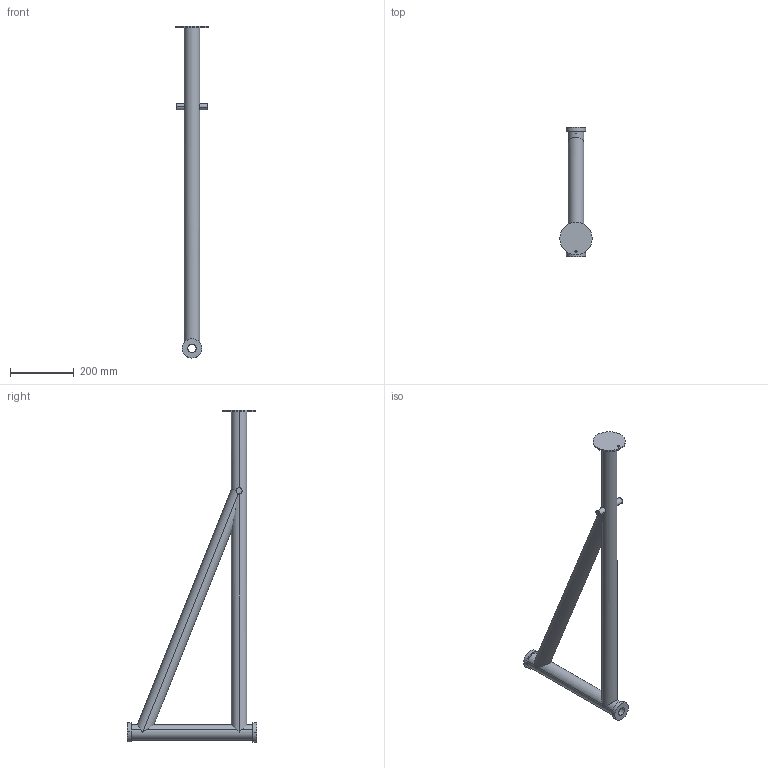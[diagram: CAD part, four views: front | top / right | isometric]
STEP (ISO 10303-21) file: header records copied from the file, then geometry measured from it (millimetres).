
FILE_DESCRIPTION (( 'STEP AP214' ), '1' );
FILE_NAME ('OBH-230-1.STEP', '2023-02-10T15:44:30', ( '' ), ( '' ), 'SwSTEP 2.0', 'SolidWorks 2021', '' );
FILE_SCHEMA (( 'AUTOMOTIVE_DESIGN' ));
Length unit declared in the file: inch
Products named in the file (7): OBH-2304; OBH-2303; OBH-2301; OBH-23011; OBH-2302; OBH-230-1; OBH-23012
Assembly tree (8 placements, depth 2):
  OBH-230-1
    OBH-2301
    OBH-2302
    OBH-2303  x2
    OBH-2304
    OBH-23011
    OBH-23012  x2
Bounding box: 101.6 x 403.86 x 1038.22 mm (x, y, z)
Volume: 1206052.9 mm3; surface area: 638349.1 mm2
Topology: 8 solids, 8 shells, 51 faces, 102 edges, 68 vertices
Faces by surface type: cylinder 36, plane 15
Entity records: 1773 total; most frequent: CARTESIAN_POINT 614, DIRECTION 196, ORIENTED_EDGE 156, AXIS2_PLACEMENT_3D 85, EDGE_CURVE 78, VERTEX_POINT 52, EDGE_LOOP 48, ADVANCED_FACE 38
